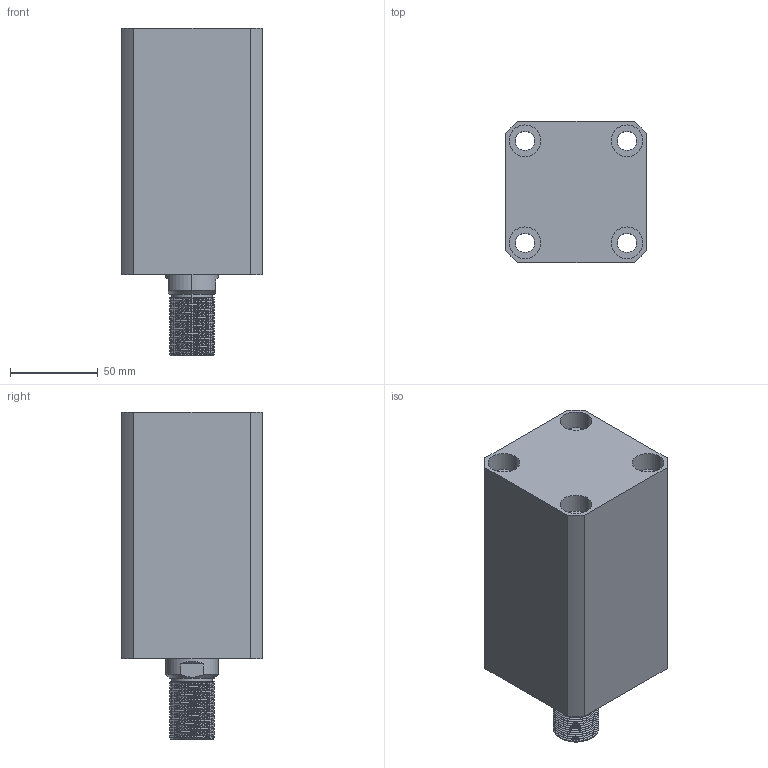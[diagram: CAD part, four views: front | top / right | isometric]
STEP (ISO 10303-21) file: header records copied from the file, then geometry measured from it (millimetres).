
FILE_DESCRIPTION (( 'STEP AP203' ), '1' );
FILE_NAME ('CHTB-SDMA50-80W.STEP', '2018-05-19T02:45:01', ( '' ), ( '' ), 'SwSTEP 2.0', 'SolidWorks 2015', '' );
FILE_SCHEMA (( 'CONFIG_CONTROL_DESIGN' ));
Length unit declared in the file: millimetre
Products named in the file (5): CHTM-SDMA50QG; M6; CHTB-SDMA50-80W; 掛极SDMA50-80W; 活塞杆SDMA50-80W
Assembly tree (5 placements, depth 2):
  CHTB-SDMA50-80W
    掛极SDMA50-80W
    活塞杆SDMA50-80W
    CHTM-SDMA50QG
    M6  x2
Bounding box: 80 x 80 x 186 mm (x, y, z)
Volume: 735231.6 mm3; surface area: 138302.3 mm2
Topology: 5 solids, 5 shells, 312 faces, 831 edges, 553 vertices
Faces by surface type: cylinder 179, plane 60, cone 29, bspline 28, torus 16
Entity records: 17949 total; most frequent: CARTESIAN_POINT 11067, ORIENTED_EDGE 1468, DIRECTION 1169, EDGE_CURVE 734, VERTEX_POINT 492, AXIS2_PLACEMENT_3D 472, EDGE_LOOP 320, ADVANCED_FACE 277
